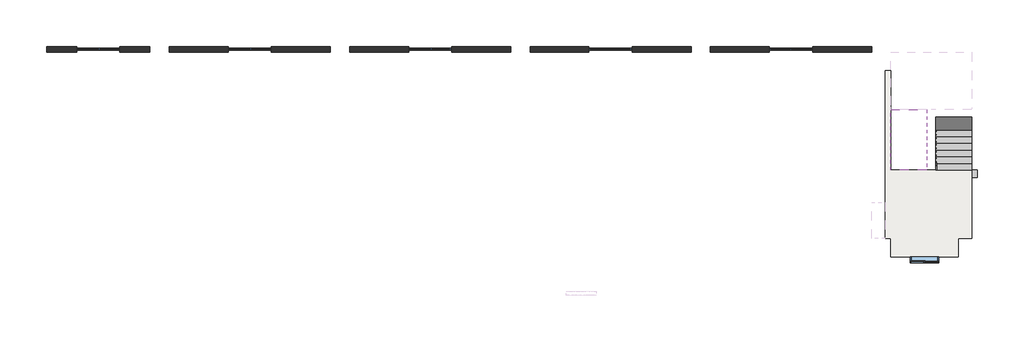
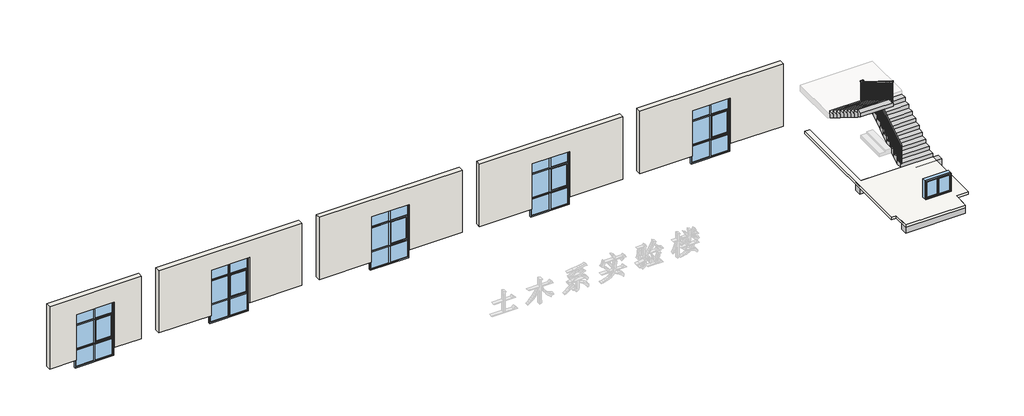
# One storey, part 1 of 2: 6 windows, 5 walls, 2 beams, 2 stair flights, 1 railing, 1 slab.
"""IFC4 building model written with IfcOpenShell, lengths in millimetres."""

from ifc_helpers import new_model, si_unit, frame, origin, place, context, project, spatial, polyline, outline, extrude, faceted_brep, transform, mapped, element, save
from components import beam_300x400_5cb47341, c1209_ef09aeb5, c1827_75bc612b, c1827_e9777f8c

model = new_model("IFC4")

# Units and contexts
model_context = context("Model", 3, world=origin())
ifc_project = project(units=[si_unit("LENGTHUNIT", "METRE", prefix="MILLI")], contexts=[model_context])

# Site, building, storey
site = spatial("IfcSite", under=ifc_project)
building = spatial("IfcBuilding", under=site)
storey = spatial("IfcBuildingStorey", under=building, Name="三层", Elevation=7000.0)

# Beams
placement = place(None, origin())
element("IfcBeam", 1, ObjectType="混凝土 - 矩形梁 : 300X400", at=placement, inside=storey, context=model_context, shape_type="SweptSolid", body=[
    extrude(outline(polyline([(26422.1385293, -289.8143546), (26422.1385293, 10.1856454), (29222.1385293, 10.1856454), (29222.1385293, -289.8143546), (26422.1385293, -289.8143546)])), frame((0.0, 0.0, 6600.0), z_axis=(0.0, 0.0, 1.0), x_axis=(1.0, 0.0, 0.0)), (0.0, 0.0, 1.0), 400.0),
])
beam_300x400_shape = beam_300x400_5cb47341(model_context)
element("IfcBeam", 2, ObjectType="混凝土 - 矩形梁 : 300X400", at=placement, inside=storey, context=model_context, shape_type="MappedRepresentation", body=[
    mapped(beam_300x400_shape, transform((28102.1385293, 3170.1856454, 6800.0), x_axis=(1.0, 0.0, 0.0), y_axis=(0.0, 1.0, 0.0), z_axis=(0.0, 0.0, 1.0))),
])

# Railing
element("IfcRailing", 3, ObjectType="900mm", at=placement, inside=storey, context=model_context, shape_type="SolidModel", body=[
    faceted_brep([(28282.5385293, 3320.3432269, 8075.0), (28282.5385293, 3320.3432269, 8016.0376179), (28332.5385293, 3320.3432269, 8016.0376179), (28332.5385293, 3320.3432269, 8075.0), (28282.5385293, 5765.7432269, 9603.375), (28282.5385293, 5815.7432269, 9575.6626179), (28332.5385293, 5815.7432269, 9575.6626179), (28332.5385293, 5765.7432269, 9603.375), (28282.5385293, 5765.7432269, 9650.0), (28282.5385293, 5815.7432269, 9600.0), (28332.5385293, 5815.7432269, 9600.0), (28332.5385293, 5765.7432269, 9650.0), (28282.5385293, 5840.7432269, 9650.0), (28282.5385293, 5840.7432269, 9600.0), (28332.5385293, 5890.7432269, 9600.0), (28332.5385293, 5890.7432269, 9650.0), (28207.5385293, 5840.7432269, 9650.0), (28207.5385293, 5840.7432269, 9600.0), (28207.5385293, 5890.7432269, 9600.0), (28207.5385293, 5890.7432269, 9650.0), (27996.7385293, 5840.7432269, 9650.0), (27946.7385293, 5840.7432269, 9600.0), (27946.7385293, 5890.7432269, 9600.0), (27996.7385293, 5890.7432269, 9650.0), (27996.7385293, 5840.7432269, 9871.625), (27946.7385293, 5840.7432269, 9821.625), (27946.7385293, 5890.7432269, 9821.625), (27996.7385293, 5890.7432269, 9871.625), (27921.7385293, 5840.7432269, 9871.625), (27921.7385293, 5840.7432269, 9821.625), (27871.7385293, 5890.7432269, 9821.625), (27871.7385293, 5890.7432269, 9871.625), (27921.7385293, 5765.7432269, 9871.625), (27921.7385293, 5751.4034156, 9821.625), (27871.7385293, 5751.4034156, 9821.625), (27871.7385293, 5765.7432269, 9871.625), (27921.7385293, 3320.3432269, 11400.0), (27871.7385293, 3320.3432269, 11400.0), (27871.7385293, 3320.3432269, 11341.0376179), (27921.7385293, 3320.3432269, 11341.0376179)], [[[0, 1, 2, 3]], [[1, 0, 4, 5]], [[2, 1, 5, 6]], [[3, 2, 6, 7]], [[0, 3, 7, 4]], [[5, 4, 8, 9]], [[6, 5, 9, 10]], [[7, 6, 10, 11]], [[4, 7, 11, 8]], [[9, 8, 12, 13]], [[10, 9, 13, 14]], [[11, 10, 14, 15]], [[8, 11, 15, 12]], [[13, 12, 16, 17]], [[14, 13, 17, 18]], [[15, 14, 18, 19]], [[12, 15, 19, 16]], [[17, 16, 20, 21]], [[18, 17, 21, 22]], [[19, 18, 22, 23]], [[16, 19, 23, 20]], [[21, 20, 24, 25]], [[22, 21, 25, 26]], [[23, 22, 26, 27]], [[20, 23, 27, 24]], [[25, 24, 28, 29]], [[26, 25, 29, 30]], [[27, 26, 30, 31]], [[24, 27, 31, 28]], [[29, 28, 32, 33]], [[30, 29, 33, 34]], [[31, 30, 34, 35]], [[28, 31, 35, 32]], [[36, 37, 38, 39]], [[33, 32, 36, 39]], [[34, 33, 39, 38]], [[35, 34, 38, 37]], [[32, 35, 37, 36]]]),
    extrude(outline(polyline([(3425.7432269, 10325.0), (3405.7432269, 10325.0), (3405.7432269, 11287.6626179), (3425.7432269, 11275.1626179), (3425.7432269, 10325.0)])), frame((27886.7385293, 0.0, 0.0), z_axis=(1.0, 0.0, 0.0), x_axis=(0.0, 1.0, 0.0)), (0.0, 0.0, 1.0), 20.0),
    extrude(outline(polyline([(3565.7432269, 10325.0), (3545.7432269, 10325.0), (3545.7432269, 11200.1626179), (3565.7432269, 11187.6626179), (3565.7432269, 10325.0)])), frame((27886.7385293, 0.0, 0.0), z_axis=(1.0, 0.0, 0.0), x_axis=(0.0, 1.0, 0.0)), (0.0, 0.0, 1.0), 20.0),
    extrude(outline(polyline([(3705.7432269, 10150.0), (3685.7432269, 10150.0), (3685.7432269, 11112.6626179), (3705.7432269, 11100.1626179), (3705.7432269, 10150.0)])), frame((27886.7385293, 0.0, 0.0), z_axis=(1.0, 0.0, 0.0), x_axis=(0.0, 1.0, 0.0)), (0.0, 0.0, 1.0), 20.0),
    extrude(outline(polyline([(3845.7432269, 10150.0), (3825.7432269, 10150.0), (3825.7432269, 11025.1626179), (3845.7432269, 11012.6626179), (3845.7432269, 10150.0)])), frame((27886.7385293, 0.0, 0.0), z_axis=(1.0, 0.0, 0.0), x_axis=(0.0, 1.0, 0.0)), (0.0, 0.0, 1.0), 20.0),
    extrude(outline(polyline([(3985.7432269, 9975.0), (3965.7432269, 9975.0), (3965.7432269, 10937.6626179), (3985.7432269, 10925.1626179), (3985.7432269, 9975.0)])), frame((27886.7385293, 0.0, 0.0), z_axis=(1.0, 0.0, 0.0), x_axis=(0.0, 1.0, 0.0)), (0.0, 0.0, 1.0), 20.0),
    extrude(outline(polyline([(4125.7432269, 9975.0), (4105.7432269, 9975.0), (4105.7432269, 10850.1626179), (4125.7432269, 10837.6626179), (4125.7432269, 9975.0)])), frame((27886.7385293, 0.0, 0.0), z_axis=(1.0, 0.0, 0.0), x_axis=(0.0, 1.0, 0.0)), (0.0, 0.0, 1.0), 20.0),
    extrude(outline(polyline([(4265.7432269, 9800.0), (4245.7432269, 9800.0), (4245.7432269, 10762.6626179), (4265.7432269, 10750.1626179), (4265.7432269, 9800.0)])), frame((27886.7385293, 0.0, 0.0), z_axis=(1.0, 0.0, 0.0), x_axis=(0.0, 1.0, 0.0)), (0.0, 0.0, 1.0), 20.0),
    extrude(outline(polyline([(4405.7432269, 9800.0), (4385.7432269, 9800.0), (4385.7432269, 10675.1626179), (4405.7432269, 10662.6626179), (4405.7432269, 9800.0)])), frame((27886.7385293, 0.0, 0.0), z_axis=(1.0, 0.0, 0.0), x_axis=(0.0, 1.0, 0.0)), (0.0, 0.0, 1.0), 20.0),
    extrude(outline(polyline([(4545.7432269, 9625.0), (4525.7432269, 9625.0), (4525.7432269, 10587.6626179), (4545.7432269, 10575.1626179), (4545.7432269, 9625.0)])), frame((27886.7385293, 0.0, 0.0), z_axis=(1.0, 0.0, 0.0), x_axis=(0.0, 1.0, 0.0)), (0.0, 0.0, 1.0), 20.0),
    extrude(outline(polyline([(4685.7432269, 9625.0), (4665.7432269, 9625.0), (4665.7432269, 10500.1626179), (4685.7432269, 10487.6626179), (4685.7432269, 9625.0)])), frame((27886.7385293, 0.0, 0.0), z_axis=(1.0, 0.0, 0.0), x_axis=(0.0, 1.0, 0.0)), (0.0, 0.0, 1.0), 20.0),
    extrude(outline(polyline([(4825.7432269, 9450.0), (4805.7432269, 9450.0), (4805.7432269, 10412.6626179), (4825.7432269, 10400.1626179), (4825.7432269, 9450.0)])), frame((27886.7385293, 0.0, 0.0), z_axis=(1.0, 0.0, 0.0), x_axis=(0.0, 1.0, 0.0)), (0.0, 0.0, 1.0), 20.0),
    extrude(outline(polyline([(4965.7432269, 9450.0), (4945.7432269, 9450.0), (4945.7432269, 10325.1626179), (4965.7432269, 10312.6626179), (4965.7432269, 9450.0)])), frame((27886.7385293, 0.0, 0.0), z_axis=(1.0, 0.0, 0.0), x_axis=(0.0, 1.0, 0.0)), (0.0, 0.0, 1.0), 20.0),
    extrude(outline(polyline([(5105.7432269, 9275.0), (5085.7432269, 9275.0), (5085.7432269, 10237.6626179), (5105.7432269, 10225.1626179), (5105.7432269, 9275.0)])), frame((27886.7385293, 0.0, 0.0), z_axis=(1.0, 0.0, 0.0), x_axis=(0.0, 1.0, 0.0)), (0.0, 0.0, 1.0), 20.0),
    extrude(outline(polyline([(5245.7432269, 9275.0), (5225.7432269, 9275.0), (5225.7432269, 10150.1626179), (5245.7432269, 10137.6626179), (5245.7432269, 9275.0)])), frame((27886.7385293, 0.0, 0.0), z_axis=(1.0, 0.0, 0.0), x_axis=(0.0, 1.0, 0.0)), (0.0, 0.0, 1.0), 20.0),
    extrude(outline(polyline([(5385.7432269, 9100.0), (5365.7432269, 9100.0), (5365.7432269, 10062.6626179), (5385.7432269, 10050.1626179), (5385.7432269, 9100.0)])), frame((27886.7385293, 0.0, 0.0), z_axis=(1.0, 0.0, 0.0), x_axis=(0.0, 1.0, 0.0)), (0.0, 0.0, 1.0), 20.0),
    extrude(outline(polyline([(5525.7432269, 9100.0), (5505.7432269, 9100.0), (5505.7432269, 9975.1626179), (5525.7432269, 9962.6626179), (5525.7432269, 9100.0)])), frame((27886.7385293, 0.0, 0.0), z_axis=(1.0, 0.0, 0.0), x_axis=(0.0, 1.0, 0.0)), (0.0, 0.0, 1.0), 20.0),
    extrude(outline(polyline([(5665.7432269, 8925.0), (5645.7432269, 8925.0), (5645.7432269, 9887.6626179), (5665.7432269, 9875.1626179), (5665.7432269, 8925.0)])), frame((27886.7385293, 0.0, 0.0), z_axis=(1.0, 0.0, 0.0), x_axis=(0.0, 1.0, 0.0)), (0.0, 0.0, 1.0), 20.0),
    extrude(outline(polyline([(27906.7385293, 5805.7432269), (27906.7385293, 5785.7432269), (27886.7385293, 5785.7432269), (27886.7385293, 5805.7432269), (27906.7385293, 5805.7432269)])), frame((0.0, 0.0, 8925.0), z_axis=(0.0, 0.0, 1.0), x_axis=(1.0, 0.0, 0.0)), (0.0, 0.0, 1.0), 896.625),
    extrude(outline(polyline([(27967.5385293, 5855.7432269), (27947.5385293, 5855.7432269), (27947.5385293, 5875.7432269), (27967.5385293, 5875.7432269), (27967.5385293, 5855.7432269)])), frame((0.0, 0.0, 8750.0), z_axis=(0.0, 0.0, 1.0), x_axis=(1.0, 0.0, 0.0)), (0.0, 0.0, 1.0), 850.0),
    extrude(outline(polyline([(28107.5385293, 5855.7432269), (28087.5385293, 5855.7432269), (28087.5385293, 5875.7432269), (28107.5385293, 5875.7432269), (28107.5385293, 5855.7432269)])), frame((0.0, 0.0, 8750.0), z_axis=(0.0, 0.0, 1.0), x_axis=(1.0, 0.0, 0.0)), (0.0, 0.0, 1.0), 850.0),
    extrude(outline(polyline([(28247.5385293, 5855.7432269), (28227.5385293, 5855.7432269), (28227.5385293, 5875.7432269), (28247.5385293, 5875.7432269), (28247.5385293, 5855.7432269)])), frame((0.0, 0.0, 8750.0), z_axis=(0.0, 0.0, 1.0), x_axis=(1.0, 0.0, 0.0)), (0.0, 0.0, 1.0), 850.0),
    extrude(outline(polyline([(5760.3432269, 9541.0376179), (5780.3432269, 9553.5376179), (5780.3432269, 8575.0), (5760.3432269, 8575.0), (5760.3432269, 9541.0376179)])), frame((28297.5385293, 0.0, 0.0), z_axis=(1.0, 0.0, 0.0), x_axis=(0.0, 1.0, 0.0)), (0.0, 0.0, 1.0), 20.0),
    extrude(outline(polyline([(5620.3432269, 9453.5376179), (5640.3432269, 9466.0376179), (5640.3432269, 8575.0), (5620.3432269, 8575.0), (5620.3432269, 9453.5376179)])), frame((28297.5385293, 0.0, 0.0), z_axis=(1.0, 0.0, 0.0), x_axis=(0.0, 1.0, 0.0)), (0.0, 0.0, 1.0), 20.0),
    extrude(outline(polyline([(5480.3432269, 9366.0376179), (5500.3432269, 9378.5376179), (5500.3432269, 8400.0), (5480.3432269, 8400.0), (5480.3432269, 9366.0376179)])), frame((28297.5385293, 0.0, 0.0), z_axis=(1.0, 0.0, 0.0), x_axis=(0.0, 1.0, 0.0)), (0.0, 0.0, 1.0), 20.0),
    extrude(outline(polyline([(5340.3432269, 9278.5376179), (5360.3432269, 9291.0376179), (5360.3432269, 8400.0), (5340.3432269, 8400.0), (5340.3432269, 9278.5376179)])), frame((28297.5385293, 0.0, 0.0), z_axis=(1.0, 0.0, 0.0), x_axis=(0.0, 1.0, 0.0)), (0.0, 0.0, 1.0), 20.0),
    extrude(outline(polyline([(5200.3432269, 9191.0376179), (5220.3432269, 9203.5376179), (5220.3432269, 8225.0), (5200.3432269, 8225.0), (5200.3432269, 9191.0376179)])), frame((28297.5385293, 0.0, 0.0), z_axis=(1.0, 0.0, 0.0), x_axis=(0.0, 1.0, 0.0)), (0.0, 0.0, 1.0), 20.0),
    extrude(outline(polyline([(5060.3432269, 9103.5376179), (5080.3432269, 9116.0376179), (5080.3432269, 8225.0), (5060.3432269, 8225.0), (5060.3432269, 9103.5376179)])), frame((28297.5385293, 0.0, 0.0), z_axis=(1.0, 0.0, 0.0), x_axis=(0.0, 1.0, 0.0)), (0.0, 0.0, 1.0), 20.0),
    extrude(outline(polyline([(4920.3432269, 9016.0376179), (4940.3432269, 9028.5376179), (4940.3432269, 8050.0), (4920.3432269, 8050.0), (4920.3432269, 9016.0376179)])), frame((28297.5385293, 0.0, 0.0), z_axis=(1.0, 0.0, 0.0), x_axis=(0.0, 1.0, 0.0)), (0.0, 0.0, 1.0), 20.0),
    extrude(outline(polyline([(4780.3432269, 8928.5376179), (4800.3432269, 8941.0376179), (4800.3432269, 8050.0), (4780.3432269, 8050.0), (4780.3432269, 8928.5376179)])), frame((28297.5385293, 0.0, 0.0), z_axis=(1.0, 0.0, 0.0), x_axis=(0.0, 1.0, 0.0)), (0.0, 0.0, 1.0), 20.0),
    extrude(outline(polyline([(4640.3432269, 8841.0376179), (4660.3432269, 8853.5376179), (4660.3432269, 7875.0), (4640.3432269, 7875.0), (4640.3432269, 8841.0376179)])), frame((28297.5385293, 0.0, 0.0), z_axis=(1.0, 0.0, 0.0), x_axis=(0.0, 1.0, 0.0)), (0.0, 0.0, 1.0), 20.0),
    extrude(outline(polyline([(4500.3432269, 8753.5376179), (4520.3432269, 8766.0376179), (4520.3432269, 7875.0), (4500.3432269, 7875.0), (4500.3432269, 8753.5376179)])), frame((28297.5385293, 0.0, 0.0), z_axis=(1.0, 0.0, 0.0), x_axis=(0.0, 1.0, 0.0)), (0.0, 0.0, 1.0), 20.0),
    extrude(outline(polyline([(4360.3432269, 8666.0376179), (4380.3432269, 8678.5376179), (4380.3432269, 7700.0), (4360.3432269, 7700.0), (4360.3432269, 8666.0376179)])), frame((28297.5385293, 0.0, 0.0), z_axis=(1.0, 0.0, 0.0), x_axis=(0.0, 1.0, 0.0)), (0.0, 0.0, 1.0), 20.0),
    extrude(outline(polyline([(4220.3432269, 8578.5376179), (4240.3432269, 8591.0376179), (4240.3432269, 7700.0), (4220.3432269, 7700.0), (4220.3432269, 8578.5376179)])), frame((28297.5385293, 0.0, 0.0), z_axis=(1.0, 0.0, 0.0), x_axis=(0.0, 1.0, 0.0)), (0.0, 0.0, 1.0), 20.0),
    extrude(outline(polyline([(4080.3432269, 8491.0376179), (4100.3432269, 8503.5376179), (4100.3432269, 7525.0), (4080.3432269, 7525.0), (4080.3432269, 8491.0376179)])), frame((28297.5385293, 0.0, 0.0), z_axis=(1.0, 0.0, 0.0), x_axis=(0.0, 1.0, 0.0)), (0.0, 0.0, 1.0), 20.0),
    extrude(outline(polyline([(3940.3432269, 8403.5376179), (3960.3432269, 8416.0376179), (3960.3432269, 7525.0), (3940.3432269, 7525.0), (3940.3432269, 8403.5376179)])), frame((28297.5385293, 0.0, 0.0), z_axis=(1.0, 0.0, 0.0), x_axis=(0.0, 1.0, 0.0)), (0.0, 0.0, 1.0), 20.0),
    extrude(outline(polyline([(3800.3432269, 8316.0376179), (3820.3432269, 8328.5376179), (3820.3432269, 7350.0), (3800.3432269, 7350.0), (3800.3432269, 8316.0376179)])), frame((28297.5385293, 0.0, 0.0), z_axis=(1.0, 0.0, 0.0), x_axis=(0.0, 1.0, 0.0)), (0.0, 0.0, 1.0), 20.0),
    extrude(outline(polyline([(3660.3432269, 8228.5376179), (3680.3432269, 8241.0376179), (3680.3432269, 7350.0), (3660.3432269, 7350.0), (3660.3432269, 8228.5376179)])), frame((28297.5385293, 0.0, 0.0), z_axis=(1.0, 0.0, 0.0), x_axis=(0.0, 1.0, 0.0)), (0.0, 0.0, 1.0), 20.0),
    extrude(outline(polyline([(3520.3432269, 8141.0376179), (3540.3432269, 8153.5376179), (3540.3432269, 7175.0), (3520.3432269, 7175.0), (3520.3432269, 8141.0376179)])), frame((28297.5385293, 0.0, 0.0), z_axis=(1.0, 0.0, 0.0), x_axis=(0.0, 1.0, 0.0)), (0.0, 0.0, 1.0), 20.0),
    extrude(outline(polyline([(3380.3432269, 8053.5376179), (3400.3432269, 8066.0376179), (3400.3432269, 7175.0), (3380.3432269, 7175.0), (3380.3432269, 8053.5376179)])), frame((28297.5385293, 0.0, 0.0), z_axis=(1.0, 0.0, 0.0), x_axis=(0.0, 1.0, 0.0)), (0.0, 0.0, 1.0), 20.0),
    extrude(outline(polyline([(27906.7385293, 5875.7432269), (27906.7385293, 5855.7432269), (27886.7385293, 5855.7432269), (27886.7385293, 5875.7432269), (27906.7385293, 5875.7432269)])), frame((0.0, 0.0, 8750.0), z_axis=(0.0, 0.0, 1.0), x_axis=(1.0, 0.0, 0.0)), (0.0, 0.0, 1.0), 1071.625),
    extrude(outline(polyline([(28297.5385293, 5855.7432269), (28297.5385293, 5875.7432269), (28317.5385293, 5875.7432269), (28317.5385293, 5855.7432269), (28297.5385293, 5855.7432269)])), frame((0.0, 0.0, 8750.0), z_axis=(0.0, 0.0, 1.0), x_axis=(1.0, 0.0, 0.0)), (0.0, 0.0, 1.0), 850.0),
    extrude(outline(polyline([(28297.5385293, 5830.3432269), (28297.5385293, 5850.3432269), (28317.5385293, 5850.3432269), (28317.5385293, 5830.3432269), (28297.5385293, 5830.3432269)])), frame((0.0, 0.0, 8750.0), z_axis=(0.0, 0.0, 1.0), x_axis=(1.0, 0.0, 0.0)), (0.0, 0.0, 1.0), 850.0),
    extrude(outline(polyline([(3340.3432269, 10325.0), (3320.3432269, 10325.0), (3320.3432269, 11341.0376179), (3340.3432269, 11328.5376179), (3340.3432269, 10325.0)])), frame((27886.7385293, 0.0, 0.0), z_axis=(1.0, 0.0, 0.0), x_axis=(0.0, 1.0, 0.0)), (0.0, 0.0, 1.0), 20.0),
    extrude(outline(polyline([(3320.3432269, 8016.0376179), (3340.3432269, 8028.5376179), (3340.3432269, 7175.0), (3320.3432269, 7175.0), (3320.3432269, 8016.0376179)])), frame((28297.5385293, 0.0, 0.0), z_axis=(1.0, 0.0, 0.0), x_axis=(0.0, 1.0, 0.0)), (0.0, 0.0, 1.0), 20.0),
])

# Slab
element("IfcSlab", 4, ObjectType="常规 - 120mm", at=placement, inside=storey, context=model_context, shape_type="SweptSolid", body=[
    extrude(outline(polyline([(29782.1385293, 470.1856454), (29222.1385293, 470.1856454), (29222.1385293, -289.8143546), (26422.1385293, -289.8143546), (26422.1385293, 470.1856454), (26182.1385293, 470.1856454), (26182.1385293, 7470.1856454), (26422.1385293, 7470.1856454), (26422.1385293, 3320.1856454), (29782.1385293, 3320.1856454), (29782.1385293, 470.1856454)])), frame((0.0, 0.0, 6880.0), z_axis=(0.0, 0.0, 1.0), x_axis=(1.0, 0.0, 0.0)), (0.0, 0.0, 1.0), 120.0),
])

# Stair flights
element("IfcStairFlight", 5, ObjectType="150mm 结构深度", at=placement, inside=storey, context=model_context, shape_type="Brep", body=[
    faceted_brep([(28282.1385293, 3600.3432269, 7175.0), (28282.1385293, 3320.3432269, 7175.0), (29782.1385293, 3320.3432269, 7175.0), (29782.1385293, 3600.3432269, 7175.0), (28282.1385293, 3600.3432269, 7000.0), (28282.1385293, 3320.3432269, 7000.0), (29782.1385293, 3320.3432269, 7000.0), (29782.1385293, 3600.3432269, 7000.0), (28282.1385293, 3880.3432269, 7350.0), (28282.1385293, 3600.3432269, 7350.0), (29782.1385293, 3600.3432269, 7350.0), (29782.1385293, 3880.3432269, 7350.0), (28282.1385293, 3880.3432269, 7173.1128538), (28282.1385293, 3603.3626608, 7000.0), (29782.1385293, 3603.3626608, 7000.0), (29782.1385293, 3880.3432269, 7173.1128538), (28282.1385293, 4160.3432269, 7525.0), (28282.1385293, 3880.3432269, 7525.0), (29782.1385293, 3880.3432269, 7525.0), (29782.1385293, 4160.3432269, 7525.0), (28282.1385293, 4160.3432269, 7348.1128538), (29782.1385293, 4160.3432269, 7348.1128538), (28282.1385293, 4440.3432269, 7700.0), (28282.1385293, 4160.3432269, 7700.0), (29782.1385293, 4160.3432269, 7700.0), (29782.1385293, 4440.3432269, 7700.0), (28282.1385293, 4440.3432269, 7523.1128538), (29782.1385293, 4440.3432269, 7523.1128538), (28282.1385293, 4720.3432269, 7875.0), (28282.1385293, 4440.3432269, 7875.0), (29782.1385293, 4440.3432269, 7875.0), (29782.1385293, 4720.3432269, 7875.0), (28282.1385293, 4720.3432269, 7698.1128538), (29782.1385293, 4720.3432269, 7698.1128538), (28282.1385293, 5000.3432269, 8050.0), (28282.1385293, 4720.3432269, 8050.0), (29782.1385293, 4720.3432269, 8050.0), (29782.1385293, 5000.3432269, 8050.0), (28282.1385293, 5000.3432269, 7873.1128538), (29782.1385293, 5000.3432269, 7873.1128538), (28282.1385293, 5280.3432269, 8225.0), (28282.1385293, 5000.3432269, 8225.0), (29782.1385293, 5000.3432269, 8225.0), (29782.1385293, 5280.3432269, 8225.0), (28282.1385293, 5280.3432269, 8048.1128538), (29782.1385293, 5280.3432269, 8048.1128538), (28282.1385293, 5560.3432269, 8400.0), (28282.1385293, 5280.3432269, 8400.0), (29782.1385293, 5280.3432269, 8400.0), (29782.1385293, 5560.3432269, 8400.0), (28282.1385293, 5560.3432269, 8223.1128538), (29782.1385293, 5560.3432269, 8223.1128538), (28282.1385293, 5840.3432269, 8575.0), (28282.1385293, 5560.3432269, 8575.0), (29782.1385293, 5560.3432269, 8575.0), (29782.1385293, 5840.3432269, 8575.0), (28282.1385293, 5840.3432269, 8450.0), (28282.1385293, 5840.3432269, 8398.1128538), (29782.1385293, 5840.3432269, 8398.1128538)], [[[0, 1, 2, 3]], [[1, 0, 4, 5]], [[2, 1, 5, 6]], [[3, 2, 6, 7]], [[8, 9, 10, 11]], [[4, 0, 9, 8, 12, 13]], [[0, 3, 10, 9]], [[3, 7, 14, 15, 11, 10]], [[16, 17, 18, 19]], [[17, 16, 20, 12, 8]], [[8, 11, 18, 17]], [[19, 18, 11, 15, 21]], [[22, 23, 24, 25]], [[23, 22, 26, 20, 16]], [[16, 19, 24, 23]], [[25, 24, 19, 21, 27]], [[28, 29, 30, 31]], [[29, 28, 32, 26, 22]], [[22, 25, 30, 29]], [[31, 30, 25, 27, 33]], [[34, 35, 36, 37]], [[35, 34, 38, 32, 28]], [[28, 31, 36, 35]], [[37, 36, 31, 33, 39]], [[40, 41, 42, 43]], [[41, 40, 44, 38, 34]], [[34, 37, 42, 41]], [[43, 42, 37, 39, 45]], [[46, 47, 48, 49]], [[47, 46, 50, 44, 40]], [[40, 43, 48, 47]], [[49, 48, 43, 45, 51]], [[52, 53, 54, 55]], [[53, 52, 56, 57, 50, 46]], [[46, 49, 54, 53]], [[55, 54, 49, 51, 58]], [[52, 55, 58, 57, 56]], [[5, 4, 13, 14, 7, 6]], [[14, 13, 12, 20, 26, 32, 38, 44, 50, 57, 58, 51, 45, 39, 33, 27, 21, 15]]]),
])
element("IfcStairFlight", 6, ObjectType="150mm 结构深度", at=placement, inside=storey, context=model_context, shape_type="Brep", body=[
    faceted_brep([(27922.1385293, 5560.3432269, 8925.0), (27922.1385293, 5840.3432269, 8925.0), (26422.1385293, 5840.3432269, 8925.0), (26422.1385293, 5560.3432269, 8925.0), (27922.1385293, 5560.3432269, 8748.1128538), (27922.1385293, 5840.3432269, 8573.1128538), (26422.1385293, 5840.3432269, 8573.1128538), (26422.1385293, 5840.3432269, 8750.0), (26422.1385293, 5560.3432269, 8748.1128538), (27922.1385293, 5280.3432269, 9100.0), (27922.1385293, 5560.3432269, 9100.0), (26422.1385293, 5560.3432269, 9100.0), (26422.1385293, 5280.3432269, 9100.0), (27922.1385293, 5280.3432269, 8923.1128538), (26422.1385293, 5280.3432269, 8923.1128538), (27922.1385293, 5000.3432269, 9275.0), (27922.1385293, 5280.3432269, 9275.0), (26422.1385293, 5280.3432269, 9275.0), (26422.1385293, 5000.3432269, 9275.0), (27922.1385293, 5000.3432269, 9098.1128538), (26422.1385293, 5000.3432269, 9098.1128538), (27922.1385293, 4720.3432269, 9450.0), (27922.1385293, 5000.3432269, 9450.0), (26422.1385293, 5000.3432269, 9450.0), (26422.1385293, 4720.3432269, 9450.0), (27922.1385293, 4720.3432269, 9273.1128538), (26422.1385293, 4720.3432269, 9273.1128538), (27922.1385293, 4440.3432269, 9625.0), (27922.1385293, 4720.3432269, 9625.0), (26422.1385293, 4720.3432269, 9625.0), (26422.1385293, 4440.3432269, 9625.0), (27922.1385293, 4440.3432269, 9448.1128538), (26422.1385293, 4440.3432269, 9448.1128538), (27922.1385293, 4160.3432269, 9800.0), (27922.1385293, 4440.3432269, 9800.0), (26422.1385293, 4440.3432269, 9800.0), (26422.1385293, 4160.3432269, 9800.0), (27922.1385293, 4160.3432269, 9623.1128538), (26422.1385293, 4160.3432269, 9623.1128538), (27922.1385293, 3880.3432269, 9975.0), (27922.1385293, 4160.3432269, 9975.0), (26422.1385293, 4160.3432269, 9975.0), (26422.1385293, 3880.3432269, 9975.0), (27922.1385293, 3880.3432269, 9798.1128538), (26422.1385293, 3880.3432269, 9798.1128538), (27922.1385293, 3600.3432269, 10150.0), (27922.1385293, 3880.3432269, 10150.0), (26422.1385293, 3880.3432269, 10150.0), (26422.1385293, 3600.3432269, 10150.0), (27922.1385293, 3600.3432269, 9973.1128538), (26422.1385293, 3600.3432269, 9973.1128538), (27922.1385293, 3320.3432269, 10325.0), (27922.1385293, 3600.3432269, 10325.0), (26422.1385293, 3600.3432269, 10325.0), (26422.1385293, 3320.3432269, 10325.0), (27922.1385293, 3320.3432269, 10148.1128538), (26422.1385293, 3320.3432269, 10148.1128538)], [[[0, 1, 2, 3]], [[1, 0, 4, 5]], [[2, 1, 5, 6, 7]], [[3, 2, 7, 6, 8]], [[9, 10, 11, 12]], [[10, 9, 13, 4, 0]], [[11, 10, 0, 3]], [[12, 11, 3, 8, 14]], [[15, 16, 17, 18]], [[16, 15, 19, 13, 9]], [[17, 16, 9, 12]], [[18, 17, 12, 14, 20]], [[21, 22, 23, 24]], [[22, 21, 25, 19, 15]], [[23, 22, 15, 18]], [[24, 23, 18, 20, 26]], [[27, 28, 29, 30]], [[28, 27, 31, 25, 21]], [[29, 28, 21, 24]], [[30, 29, 24, 26, 32]], [[33, 34, 35, 36]], [[34, 33, 37, 31, 27]], [[35, 34, 27, 30]], [[36, 35, 30, 32, 38]], [[39, 40, 41, 42]], [[40, 39, 43, 37, 33]], [[41, 40, 33, 36]], [[42, 41, 36, 38, 44]], [[45, 46, 47, 48]], [[46, 45, 49, 43, 39]], [[47, 46, 39, 42]], [[48, 47, 42, 44, 50]], [[51, 52, 53, 54]], [[52, 51, 55, 49, 45]], [[53, 52, 45, 48]], [[54, 53, 48, 50, 56]], [[51, 54, 56, 55]], [[5, 4, 13, 19, 25, 31, 37, 43, 49, 55, 56, 50, 44, 38, 32, 26, 20, 14, 8, 6]]]),
])

# Walls
element("IfcWall", 7, ObjectType="240mm厚墙", at=placement, inside=storey, context=model_context, shape_type="SweptSolid", body=[
    extrude(outline(polyline([(7000.0, -4377.8614707), (10080.0, -4377.8614707), (10080.0, -8677.8614707), (7000.0, -8677.8614707), (7000.0, -7427.8614707), (9250.0, -7427.8614707), (9250.0, -5627.8614707), (7000.0, -5627.8614707), (7000.0, -4377.8614707)])), frame((0.0, 8230.1856454, 0.0), z_axis=(0.0, 1.0, 0.0), x_axis=(0.0, 0.0, 1.0)), (0.0, 0.0, 1.0), 240.0),
])
element("IfcWall", 8, ObjectType="240mm厚墙", at=placement, inside=storey, context=model_context, shape_type="SweptSolid", body=[
    extrude(outline(polyline([(7000.0, 3122.1385293), (10080.0, 3122.1385293), (10080.0, -3577.8614707), (7000.0, -3577.8614707), (7000.0, -1127.8614707), (9250.0, -1127.8614707), (9250.0, 672.1385293), (7000.0, 672.1385293), (7000.0, 3122.1385293)])), frame((0.0, 8230.1856454, 0.0), z_axis=(0.0, 1.0, 0.0), x_axis=(0.0, 0.0, 1.0)), (0.0, 0.0, 1.0), 240.0),
])
element("IfcWall", 9, ObjectType="240mm厚墙", at=placement, inside=storey, context=model_context, shape_type="SweptSolid", body=[
    extrude(outline(polyline([(7000.0, 10622.1385293), (10080.0, 10622.1385293), (10080.0, 3922.1385293), (7000.0, 3922.1385293), (7000.0, 6372.1385293), (9250.0, 6372.1385293), (9250.0, 8172.1385293), (7000.0, 8172.1385293), (7000.0, 10622.1385293)])), frame((0.0, 8230.1856454, 0.0), z_axis=(0.0, 1.0, 0.0), x_axis=(0.0, 0.0, 1.0)), (0.0, 0.0, 1.0), 240.0),
])
element("IfcWall", 10, ObjectType="240mm厚墙", at=placement, inside=storey, context=model_context, shape_type="SweptSolid", body=[
    extrude(outline(polyline([(7000.0, 18122.1385293), (10080.0, 18122.1385293), (10080.0, 11422.1385293), (7000.0, 11422.1385293), (7000.0, 13872.1385293), (9250.0, 13872.1385293), (9250.0, 15672.1385293), (7000.0, 15672.1385293), (7000.0, 18122.1385293)])), frame((0.0, 8230.1856454, 0.0), z_axis=(0.0, 1.0, 0.0), x_axis=(0.0, 0.0, 1.0)), (0.0, 0.0, 1.0), 240.0),
])
element("IfcWall", 11, ObjectType="240mm厚墙", at=placement, inside=storey, context=model_context, shape_type="SweptSolid", body=[
    extrude(outline(polyline([(7000.0, 25622.1385293), (10080.0, 25622.1385293), (10080.0, 18922.1385293), (7000.0, 18922.1385293), (7000.0, 21372.1385293), (9250.0, 21372.1385293), (9250.0, 23172.1385293), (7000.0, 23172.1385293), (7000.0, 25622.1385293)])), frame((0.0, 8230.1856454, 0.0), z_axis=(0.0, 1.0, 0.0), x_axis=(0.0, 0.0, 1.0)), (0.0, 0.0, 1.0), 240.0),
])

# Windows
c1209_shape = c1209_ef09aeb5(model_context)
element("IfcWindow", 12, ObjectType="推拉窗6 : C1209", at=placement, inside=storey, context=model_context, shape_type="MappedRepresentation", body=[
    mapped(c1209_shape, transform((27831.6635293, -476.6877921, 5900.0), x_axis=(-1.0, 0.0, 0.0), y_axis=(0.0, -1.0, 0.0), z_axis=(0.0, 0.0, 1.0))),
])
c1827_shape = c1827_75bc612b(model_context)
element("IfcWindow", 13, ObjectType="组合窗 - 三层双列(平开+固定) : C1827", at=placement, inside=storey, context=model_context, shape_type="MappedRepresentation", body=[
    mapped(c1827_shape, transform((-6527.8614707, 8350.1856454, 6550.0), x_axis=(1.0, 0.0, 0.0), y_axis=(0.0, 1.0, 0.0), z_axis=(0.0, 0.0, 1.0))),
])
element("IfcWindow", 14, ObjectType="组合窗 - 三层双列(平开+固定) : C1827", at=placement, inside=storey, context=model_context, shape_type="MappedRepresentation", body=[
    mapped(c1827_shape, transform((-227.8614707, 8350.1856454, 6550.0), x_axis=(1.0, 0.0, 0.0), y_axis=(0.0, 1.0, 0.0), z_axis=(0.0, 0.0, 1.0))),
])
c1827_2_shape = c1827_e9777f8c(model_context)
element("IfcWindow", 15, ObjectType="组合窗 - 三层双列(平开+固定) : C1827", at=placement, inside=storey, context=model_context, shape_type="MappedRepresentation", body=[
    mapped(c1827_2_shape, transform((7272.1385293, 8285.1856454, 6550.0), x_axis=(1.0, 0.0, 0.0), y_axis=(0.0, 1.0, 0.0), z_axis=(0.0, 0.0, 1.0))),
])
element("IfcWindow", 16, ObjectType="组合窗 - 三层双列(平开+固定) : C1827", at=placement, inside=storey, context=model_context, shape_type="MappedRepresentation", body=[
    mapped(c1827_2_shape, transform((14772.1385293, 8285.1856454, 6550.0), x_axis=(1.0, 0.0, 0.0), y_axis=(0.0, 1.0, 0.0), z_axis=(0.0, 0.0, 1.0))),
])
element("IfcWindow", 17, ObjectType="组合窗 - 三层双列(平开+固定) : C1827", at=placement, inside=storey, context=model_context, shape_type="MappedRepresentation", body=[
    mapped(c1827_2_shape, transform((22272.1385293, 8285.1856454, 6550.0), x_axis=(1.0, 0.0, 0.0), y_axis=(0.0, 1.0, 0.0), z_axis=(0.0, 0.0, 1.0))),
])

save(model, "model.ifc")
